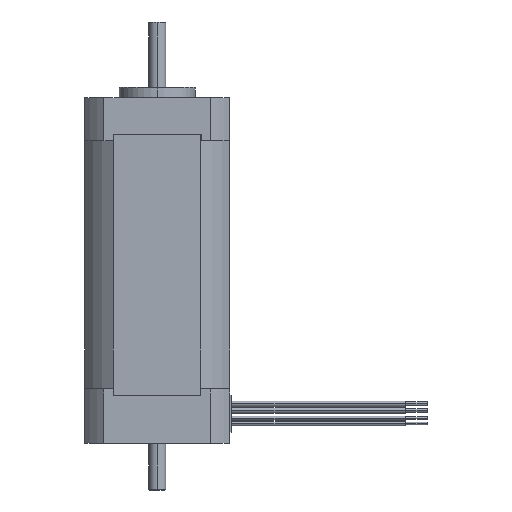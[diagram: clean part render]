
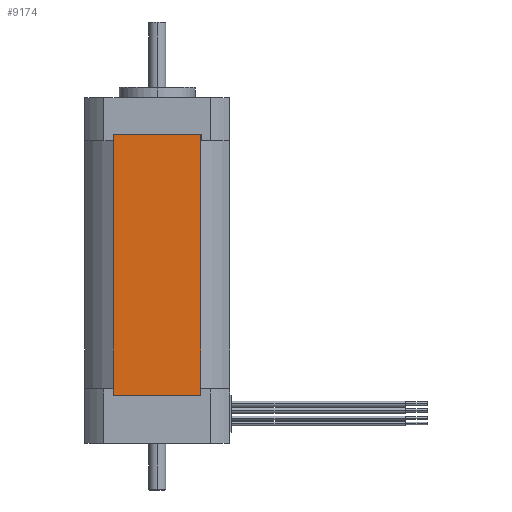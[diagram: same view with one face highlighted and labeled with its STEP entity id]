
A CAD part, left-side view. The second image highlights one B-rep face of the part: STEP entity #9174.
In plain terms, the highlighted planar face has unit normal (-1, 0, 0).
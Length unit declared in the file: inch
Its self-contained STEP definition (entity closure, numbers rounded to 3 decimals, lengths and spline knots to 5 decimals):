
#340 = FACE_OUTER_BOUND ( 'NONE', #5598, .T. ) ;
#341 = PLANE ( 'NONE',  #6478 ) ;
#353 = CARTESIAN_POINT ( 'NONE',  ( -0.826, -0.49895, -3.387 ) ) ;
#354 = DIRECTION ( 'NONE',  ( 1., 0., 0. ) ) ;
#355 = DIRECTION ( 'NONE',  ( 0., 1., 0. ) ) ;
#1705 = LINE ( 'NONE', #1712, #6303 ) ;
#1712 = CARTESIAN_POINT ( 'NONE',  ( -0.826, -0.49895, -0.42 ) ) ;
#1721 = DIRECTION ( 'NONE',  ( 0., 1., 0. ) ) ;
#1966 = LINE ( 'NONE', #1967, #6372 ) ;
#1967 = CARTESIAN_POINT ( 'NONE',  ( -0.826, -0.49895, -3.387 ) ) ;
#1968 = DIRECTION ( 'NONE',  ( 0., 0., 1. ) ) ;
#2015 = LINE ( 'NONE', #2016, #6197 ) ;
#2016 = CARTESIAN_POINT ( 'NONE',  ( -0.826, 0.49895, -3.387 ) ) ;
#2017 = DIRECTION ( 'NONE',  ( 0., 0., 1. ) ) ;
#3124 = EDGE_CURVE ( 'NONE', #4384, #4397, #1705, .T. ) ;
#3207 = EDGE_CURVE ( 'NONE', #4372, #4384, #1966, .T. ) ;
#3223 = EDGE_CURVE ( 'NONE', #4375, #4397, #2015, .T. ) ;
#4372 = VERTEX_POINT ( 'NONE', #7456 ) ;
#4375 = VERTEX_POINT ( 'NONE', #7459 ) ;
#4384 = VERTEX_POINT ( 'NONE', #7468 ) ;
#4397 = VERTEX_POINT ( 'NONE', #7481 ) ;
#4801 = ORIENTED_EDGE ( 'NONE', *, *, #3124, .T. ) ;
#4802 = ORIENTED_EDGE ( 'NONE', *, *, #3223, .F. ) ;
#4803 = ORIENTED_EDGE ( 'NONE', *, *, #9358, .F. ) ;
#4804 = ORIENTED_EDGE ( 'NONE', *, *, #3207, .T. ) ;
#5010 = LINE ( 'NONE', #5011, #6903 ) ;
#5011 = CARTESIAN_POINT ( 'NONE',  ( -0.826, -0.49895, -3.387 ) ) ;
#5024 = DIRECTION ( 'NONE',  ( 0., 1., 0. ) ) ;
#5598 = EDGE_LOOP ( 'NONE', ( #4801, #4802, #4803, #4804 ) ) ;
#6197 = VECTOR ( 'NONE', #2017, 39.37008 ) ;
#6303 = VECTOR ( 'NONE', #1721, 39.37008 ) ;
#6372 = VECTOR ( 'NONE', #1968, 39.37008 ) ;
#6478 = AXIS2_PLACEMENT_3D ( 'NONE', #353, #354, #355 ) ;
#6903 = VECTOR ( 'NONE', #5024, 39.37008 ) ;
#7456 = CARTESIAN_POINT ( 'NONE',  ( -0.826, -0.49895, -3.387 ) ) ;
#7459 = CARTESIAN_POINT ( 'NONE',  ( -0.826, 0.49895, -3.387 ) ) ;
#7468 = CARTESIAN_POINT ( 'NONE',  ( -0.826, -0.49895, -0.42 ) ) ;
#7481 = CARTESIAN_POINT ( 'NONE',  ( -0.826, 0.49895, -0.42 ) ) ;
#9174 = ADVANCED_FACE ( 'NONE', ( #340 ), #341, .F. ) ;
#9358 = EDGE_CURVE ( 'NONE', #4372, #4375, #5010, .T. ) ;
